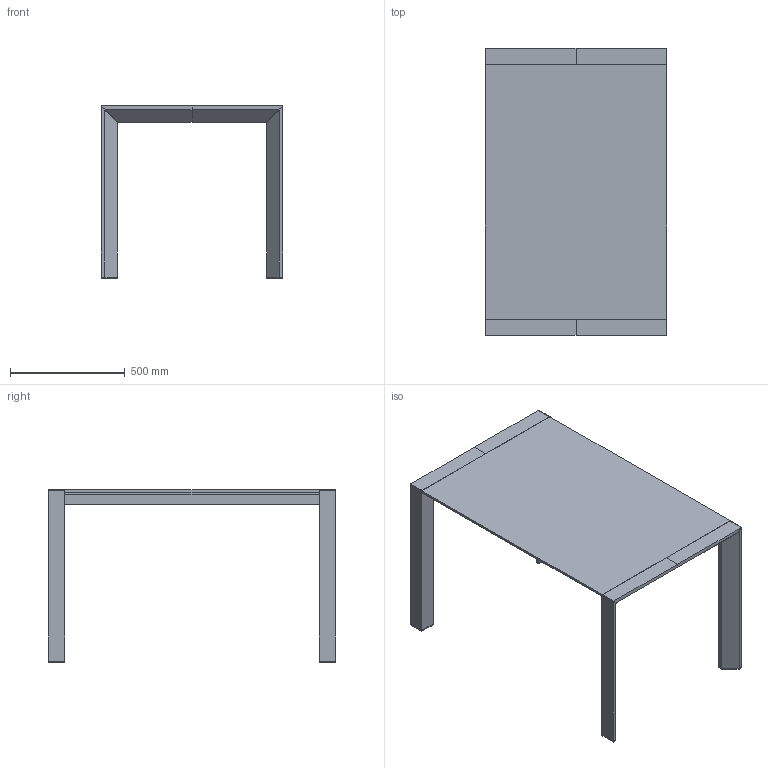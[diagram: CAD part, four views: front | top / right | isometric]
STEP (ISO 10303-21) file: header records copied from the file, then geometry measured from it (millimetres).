
FILE_DESCRIPTION(/* description */ (''),/* implementation_level */ '2;1');
FILE_NAME(/* name */ '10660 - Afill 125x79',/* time_stamp */ '2010-11-03T15:10:00+01:00',/* author */ (''),/* organization */ (''),/* preprocessor_version */ 'ST-DEVELOPER v10',/* originating_system */ '',/* authorisation */ '');
FILE_SCHEMA (('CONFIG_CONTROL_DESIGN'));
Length unit declared in the file: centimetre
Products named in the file (1): 1
Bounding box: 792.24 x 1250.6 x 751.1 mm (x, y, z)
Volume: 34455659.4 mm3; surface area: 4570107.1 mm2
Topology: 13 solids, 13 shells, 160 faces, 368 edges, 242 vertices
Faces by surface type: plane 160
Entity records: 4098 total; most frequent: CARTESIAN_POINT 1292, ORIENTED_EDGE 736, EDGE_CURVE 368, B_SPLINE_CURVE_WITH_KNOTS 368, VERTEX_POINT 242, EDGE_LOOP 168, DIRECTION 164, AXIS2_PLACEMENT_3D 162
